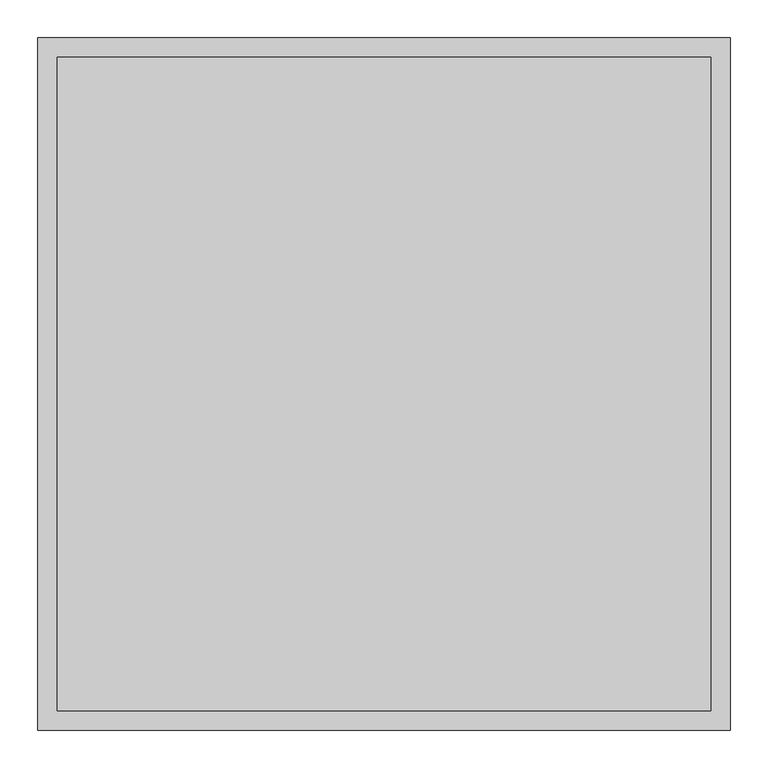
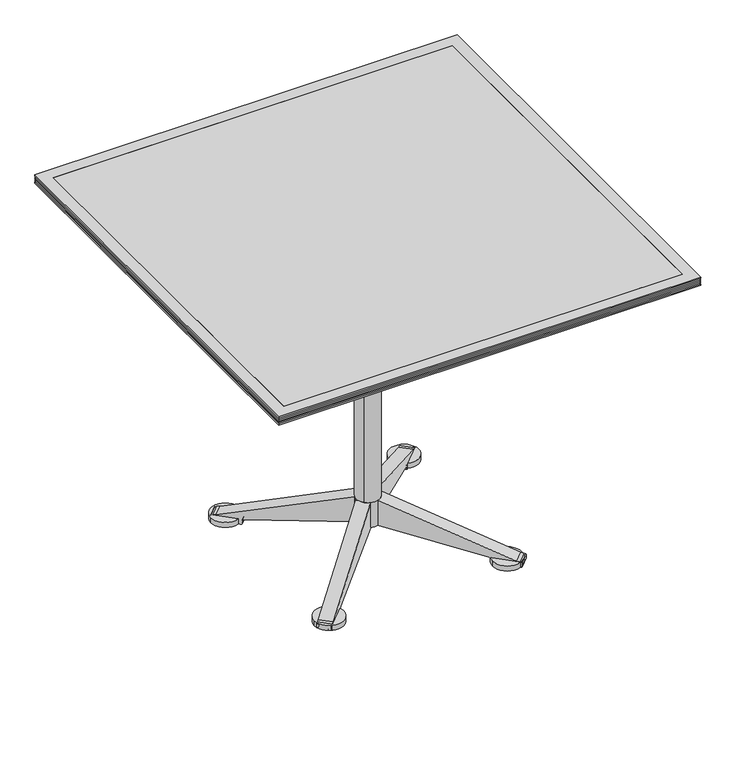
"""IFC4 building model written with IfcOpenShell, lengths in millimetres: furniture geometry, Coalesse_AM_Table_Conference_Ballet_Square : 36L x 36W - Fixed/Glide."""

from ifc_helpers import new_model, si_unit, point, frame, frame_2d, origin, origin_with_axes, place, context, project, spatial, polyline, circle_curve, trimmed, segment, composite_curve, outline, extrude, faceted_brep, source, transform, mapped, element, save


def furniture_408d4948(model_context):
    return source(origin(), model_context, "Body", "SolidModel", [
        extrude(outline(composite_curve([segment(trimmed(circle_curve(frame_2d((-194.715793, 197.3207687)), 31.75), [point((-226.465793, 197.3207687))], [point((-162.965793, 197.3207687))], False, "CARTESIAN"), True, "CONTINUOUS"), segment(trimmed(circle_curve(frame_2d((-194.715793, 197.3207687)), 31.75), [point((-162.965793, 197.3207687))], [point((-226.465793, 197.3207687))], False, "CARTESIAN"), True, "CONTINUOUS")], self_intersect=False)), frame((0.0, 0.0, 4.2904479), z_axis=(0.0, 0.0, 1.0), x_axis=(1.0, 0.0, 0.0)), (0.0, 0.0, 1.0), 11.3833531),
        extrude(outline(composite_curve([segment(trimmed(circle_curve(frame_2d((191.7194605, 196.5270187)), 31.75), [point((159.9694605, 196.5270187))], [point((223.4694605, 196.5270187))], False, "CARTESIAN"), True, "CONTINUOUS"), segment(trimmed(circle_curve(frame_2d((191.7194605, 196.5270187)), 31.75), [point((223.4694605, 196.5270187))], [point((159.9694605, 196.5270187))], False, "CARTESIAN"), True, "CONTINUOUS")], self_intersect=False)), frame((0.0, 0.0, 4.2904479), z_axis=(0.0, 0.0, 1.0), x_axis=(1.0, 0.0, 0.0)), (0.0, 0.0, 1.0), 11.3833531),
        extrude(outline(composite_curve([segment(trimmed(circle_curve(frame_2d((-194.715793, -191.2787692)), 31.75), [point((-226.465793, -191.2787692))], [point((-162.965793, -191.2787692))], False, "CARTESIAN"), True, "CONTINUOUS"), segment(trimmed(circle_curve(frame_2d((-194.715793, -191.2787692)), 31.75), [point((-162.965793, -191.2787692))], [point((-226.465793, -191.2787692))], False, "CARTESIAN"), True, "CONTINUOUS")], self_intersect=False)), frame((0.0, 0.0, 4.2904479), z_axis=(0.0, 0.0, 1.0), x_axis=(1.0, 0.0, 0.0)), (0.0, 0.0, 1.0), 11.3833531),
        extrude(outline(composite_curve([segment(trimmed(circle_curve(frame_2d((191.7194605, -190.4850192)), 31.75), [point((159.9694605, -190.4850192))], [point((223.4694605, -190.4850192))], False, "CARTESIAN"), True, "CONTINUOUS"), segment(trimmed(circle_curve(frame_2d((191.7194605, -190.4850192)), 31.75), [point((223.4694605, -190.4850192))], [point((159.9694605, -190.4850192))], False, "CARTESIAN"), True, "CONTINUOUS")], self_intersect=False)), frame((0.0, 0.0, 4.2904479), z_axis=(0.0, 0.0, 1.0), x_axis=(1.0, 0.0, 0.0)), (0.0, 0.0, 1.0), 11.3833531),
        extrude(outline(composite_curve([segment(polyline([(-57.749273, 0.0), (0.0, 0.0), (-90.9931074, -269.8641919), (-92.3030079, -279.1846177)]), True, "CONTINUOUS"), segment(trimmed(circle_curve(frame_2d((-93.9206951, -278.9572666)), 1.6335852), [point((-92.3030079, -279.1846177))], [point((-93.8206014, -280.5877823))], False, "CARTESIAN"), True, "CONTINUOUS"), segment(trimmed(circle_curve(frame_2d((-95.8523928, -247.4901147)), 33.1599725), [point((-93.8206014, -280.5877823))], [point((-101.682402, -280.1335639))], False, "CARTESIAN"), True, "CONTINUOUS"), segment(trimmed(circle_curve(frame_2d((-101.2796868, -277.8786768)), 2.2905666), [point((-101.682402, -280.1335639))], [point((-103.5674671, -277.7657306))], False, "CARTESIAN"), True, "CONTINUOUS"), segment(polyline([(-103.5674671, -277.7657306), (-103.5674671, -222.4322812)]), True, "CONTINUOUS"), segment(trimmed(circle_curve(frame_2d((-100.6154331, -221.9840334)), 2.9858719), [point((-103.5674671, -222.4322812))], [point((-100.2998684, -219.0148838))], False, "CARTESIAN"), True, "CONTINUOUS"), segment(trimmed(circle_curve(frame_2d((-98.3053249, -200.2482144)), 18.872363), [point((-100.2998684, -219.0148838))], [point((-94.5016021, -218.7332835))], True, "CARTESIAN"), True, "CONTINUOUS"), segment(trimmed(circle_curve(frame_2d((-95.1495986, -215.5841949)), 3.2150673), [point((-94.5016021, -218.7332835))], [point((-91.9741141, -216.0871422))], True, "CARTESIAN"), True, "CONTINUOUS"), segment(polyline([(-91.9741141, -216.0871422), (-57.749273, 0.0)]), True, "CONTINUOUS")], self_intersect=False)), frame((-23.5273141, 7.7834997, 107.857915), z_axis=(0.7071067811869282, 0.707106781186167, 0.0), x_axis=(0.0, 0.0, 1.0)), (0.0, 0.0, 1.0), 29.2174476),
        extrude(outline(composite_curve([segment(polyline([(-57.749273, 44.2801775), (-91.9741141, 260.3673198)]), True, "CONTINUOUS"), segment(trimmed(circle_curve(frame_2d((-95.1495986, 259.8643724)), 3.2150673), [point((-91.9741141, 260.3673198))], [point((-94.5016021, 263.013461))], True, "CARTESIAN"), True, "CONTINUOUS"), segment(trimmed(circle_curve(frame_2d((-98.3053249, 244.5283919)), 18.872363), [point((-94.5016021, 263.013461))], [point((-100.2998684, 263.2950613))], True, "CARTESIAN"), True, "CONTINUOUS"), segment(trimmed(circle_curve(frame_2d((-100.6154331, 266.2642109)), 2.9858719), [point((-100.2998684, 263.2950613))], [point((-103.5674671, 266.7124587))], False, "CARTESIAN"), True, "CONTINUOUS"), segment(polyline([(-103.5674671, 266.7124587), (-103.5674671, 322.0459081)]), True, "CONTINUOUS"), segment(trimmed(circle_curve(frame_2d((-101.2796868, 322.1588543)), 2.2905666), [point((-103.5674671, 322.0459081))], [point((-101.682402, 324.4137415))], False, "CARTESIAN"), True, "CONTINUOUS"), segment(trimmed(circle_curve(frame_2d((-95.8523928, 291.7702923)), 33.1599725), [point((-101.682402, 324.4137415))], [point((-93.8206014, 324.8679598))], False, "CARTESIAN"), True, "CONTINUOUS"), segment(trimmed(circle_curve(frame_2d((-93.9206951, 323.2374442)), 1.6335852), [point((-93.8206014, 324.8679598))], [point((-92.3030079, 323.4647953))], False, "CARTESIAN"), True, "CONTINUOUS"), segment(polyline([(-92.3030079, 323.4647953), (-90.9931074, 314.1443694), (0.0, 44.2801775), (-57.749273, 44.2801775)]), True, "CONTINUOUS")], self_intersect=False)), frame((-23.5273141, 7.7834997, 107.857915), z_axis=(0.7071067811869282, 0.707106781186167, 0.0), x_axis=(0.0, 0.0, 1.0)), (0.0, 0.0, 1.0), 29.2174476),
        extrude(outline(composite_curve([segment(polyline([(-57.749273, 0.0), (0.0, 0.0), (-90.9931074, -269.8641919), (-92.3030079, -279.1846177)]), True, "CONTINUOUS"), segment(trimmed(circle_curve(frame_2d((-93.9206951, -278.9572666)), 1.6335852), [point((-92.3030079, -279.1846177))], [point((-93.8206014, -280.5877823))], False, "CARTESIAN"), True, "CONTINUOUS"), segment(trimmed(circle_curve(frame_2d((-95.8523928, -247.4901147)), 33.1599725), [point((-93.8206014, -280.5877823))], [point((-101.682402, -280.1335639))], False, "CARTESIAN"), True, "CONTINUOUS"), segment(trimmed(circle_curve(frame_2d((-101.2796868, -277.8786768)), 2.2905666), [point((-101.682402, -280.1335639))], [point((-103.5674671, -277.7657306))], False, "CARTESIAN"), True, "CONTINUOUS"), segment(polyline([(-103.5674671, -277.7657306), (-103.5674671, -222.4322812)]), True, "CONTINUOUS"), segment(trimmed(circle_curve(frame_2d((-100.6154331, -221.9840334)), 2.9858719), [point((-103.5674671, -222.4322812))], [point((-100.2998684, -219.0148838))], False, "CARTESIAN"), True, "CONTINUOUS"), segment(trimmed(circle_curve(frame_2d((-98.3053249, -200.2482144)), 18.872363), [point((-100.2998684, -219.0148838))], [point((-94.5016021, -218.7332835))], True, "CARTESIAN"), True, "CONTINUOUS"), segment(trimmed(circle_curve(frame_2d((-95.1495986, -215.5841949)), 3.2150673), [point((-94.5016021, -218.7332835))], [point((-91.9741141, -216.0871422))], True, "CARTESIAN"), True, "CONTINUOUS"), segment(polyline([(-91.9741141, -216.0871422), (-57.749273, 0.0)]), True, "CONTINUOUS")], self_intersect=False)), frame((-7.7834997, -23.5273141, 107.857915), z_axis=(-0.7071067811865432, 0.7071067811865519, 0.0), x_axis=(0.0, 0.0, 1.0)), (0.0, 0.0, 1.0), 29.2174476),
        extrude(outline(composite_curve([segment(polyline([(-57.749273, 44.2801775), (-91.9741141, 260.3673198)]), True, "CONTINUOUS"), segment(trimmed(circle_curve(frame_2d((-95.1495986, 259.8643724)), 3.2150673), [point((-91.9741141, 260.3673198))], [point((-94.5016021, 263.013461))], True, "CARTESIAN"), True, "CONTINUOUS"), segment(trimmed(circle_curve(frame_2d((-98.3053249, 244.5283919)), 18.872363), [point((-94.5016021, 263.013461))], [point((-100.2998684, 263.2950613))], True, "CARTESIAN"), True, "CONTINUOUS"), segment(trimmed(circle_curve(frame_2d((-100.6154331, 266.2642109)), 2.9858719), [point((-100.2998684, 263.2950613))], [point((-103.5674671, 266.7124587))], False, "CARTESIAN"), True, "CONTINUOUS"), segment(polyline([(-103.5674671, 266.7124587), (-103.5674671, 322.0459081)]), True, "CONTINUOUS"), segment(trimmed(circle_curve(frame_2d((-101.2796868, 322.1588543)), 2.2905666), [point((-103.5674671, 322.0459081))], [point((-101.682402, 324.4137415))], False, "CARTESIAN"), True, "CONTINUOUS"), segment(trimmed(circle_curve(frame_2d((-95.8523928, 291.7702923)), 33.1599725), [point((-101.682402, 324.4137415))], [point((-93.8206014, 324.8679598))], False, "CARTESIAN"), True, "CONTINUOUS"), segment(trimmed(circle_curve(frame_2d((-93.9206951, 323.2374442)), 1.6335852), [point((-93.8206014, 324.8679598))], [point((-92.3030079, 323.4647953))], False, "CARTESIAN"), True, "CONTINUOUS"), segment(polyline([(-92.3030079, 323.4647953), (-90.9931074, 314.1443694), (0.0, 44.2801775), (-57.749273, 44.2801775)]), True, "CONTINUOUS")], self_intersect=False)), frame((-7.7834997, -23.5273141, 107.857915), z_axis=(-0.7071067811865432, 0.7071067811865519, 0.0), x_axis=(0.0, 0.0, 1.0)), (0.0, 0.0, 1.0), 29.2174476),
        extrude(outline(composite_curve([segment(polyline([(-57.749273, 0.0), (0.0, 0.0), (-90.9931074, -269.8641919), (-92.3030079, -279.1846177)]), True, "CONTINUOUS"), segment(trimmed(circle_curve(frame_2d((-93.9206951, -278.9572666)), 1.6335852), [point((-92.3030079, -279.1846177))], [point((-93.8206014, -280.5877823))], False, "CARTESIAN"), True, "CONTINUOUS"), segment(trimmed(circle_curve(frame_2d((-95.8523928, -247.4901147)), 33.1599725), [point((-93.8206014, -280.5877823))], [point((-101.682402, -280.1335639))], False, "CARTESIAN"), True, "CONTINUOUS"), segment(trimmed(circle_curve(frame_2d((-101.2796868, -277.8786768)), 2.2905666), [point((-101.682402, -280.1335639))], [point((-103.5674671, -277.7657306))], False, "CARTESIAN"), True, "CONTINUOUS"), segment(polyline([(-103.5674671, -277.7657306), (-103.5674671, -222.4322812)]), True, "CONTINUOUS"), segment(trimmed(circle_curve(frame_2d((-100.6154331, -221.9840334)), 2.9858719), [point((-103.5674671, -222.4322812))], [point((-100.2998684, -219.0148838))], False, "CARTESIAN"), True, "CONTINUOUS"), segment(trimmed(circle_curve(frame_2d((-98.3053249, -200.2482144)), 18.872363), [point((-100.2998684, -219.0148838))], [point((-94.5016021, -218.7332835))], True, "CARTESIAN"), True, "CONTINUOUS"), segment(trimmed(circle_curve(frame_2d((-95.1495986, -215.5841949)), 3.2150673), [point((-94.5016021, -218.7332835))], [point((-91.9741141, -216.0871422))], True, "CARTESIAN"), True, "CONTINUOUS"), segment(polyline([(-91.9741141, -216.0871422), (-57.749273, 0.0)]), True, "CONTINUOUS")], self_intersect=False)), frame((-23.5273141, 7.7834997, 107.857915), z_axis=(0.7071067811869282, 0.707106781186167, 0.0), x_axis=(0.0, 0.0, 1.0)), (0.0, 0.0, 1.0), 29.2174476),
        extrude(outline(composite_curve([segment(polyline([(-57.749273, 44.2801775), (-91.9741141, 260.3673198)]), True, "CONTINUOUS"), segment(trimmed(circle_curve(frame_2d((-95.1495986, 259.8643724)), 3.2150673), [point((-91.9741141, 260.3673198))], [point((-94.5016021, 263.013461))], True, "CARTESIAN"), True, "CONTINUOUS"), segment(trimmed(circle_curve(frame_2d((-98.3053249, 244.5283919)), 18.872363), [point((-94.5016021, 263.013461))], [point((-100.2998684, 263.2950613))], True, "CARTESIAN"), True, "CONTINUOUS"), segment(trimmed(circle_curve(frame_2d((-100.6154331, 266.2642109)), 2.9858719), [point((-100.2998684, 263.2950613))], [point((-103.5674671, 266.7124587))], False, "CARTESIAN"), True, "CONTINUOUS"), segment(polyline([(-103.5674671, 266.7124587), (-103.5674671, 322.0459081)]), True, "CONTINUOUS"), segment(trimmed(circle_curve(frame_2d((-101.2796868, 322.1588543)), 2.2905666), [point((-103.5674671, 322.0459081))], [point((-101.682402, 324.4137415))], False, "CARTESIAN"), True, "CONTINUOUS"), segment(trimmed(circle_curve(frame_2d((-95.8523928, 291.7702923)), 33.1599725), [point((-101.682402, 324.4137415))], [point((-93.8206014, 324.8679598))], False, "CARTESIAN"), True, "CONTINUOUS"), segment(trimmed(circle_curve(frame_2d((-93.9206951, 323.2374442)), 1.6335852), [point((-93.8206014, 324.8679598))], [point((-92.3030079, 323.4647953))], False, "CARTESIAN"), True, "CONTINUOUS"), segment(polyline([(-92.3030079, 323.4647953), (-90.9931074, 314.1443694), (0.0, 44.2801775), (-57.749273, 44.2801775)]), True, "CONTINUOUS")], self_intersect=False)), frame((-23.5273141, 7.7834997, 107.857915), z_axis=(0.7071067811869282, 0.707106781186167, 0.0), x_axis=(0.0, 0.0, 1.0)), (0.0, 0.0, 1.0), 29.2174476),
        extrude(outline(composite_curve([segment(polyline([(-57.749273, 0.0), (0.0, 0.0), (-90.9931074, -269.8641919), (-92.3030079, -279.1846177)]), True, "CONTINUOUS"), segment(trimmed(circle_curve(frame_2d((-93.9206951, -278.9572666)), 1.6335852), [point((-92.3030079, -279.1846177))], [point((-93.8206014, -280.5877823))], False, "CARTESIAN"), True, "CONTINUOUS"), segment(trimmed(circle_curve(frame_2d((-95.8523928, -247.4901147)), 33.1599725), [point((-93.8206014, -280.5877823))], [point((-101.682402, -280.1335639))], False, "CARTESIAN"), True, "CONTINUOUS"), segment(trimmed(circle_curve(frame_2d((-101.2796868, -277.8786768)), 2.2905666), [point((-101.682402, -280.1335639))], [point((-103.5674671, -277.7657306))], False, "CARTESIAN"), True, "CONTINUOUS"), segment(polyline([(-103.5674671, -277.7657306), (-103.5674671, -222.4322812)]), True, "CONTINUOUS"), segment(trimmed(circle_curve(frame_2d((-100.6154331, -221.9840334)), 2.9858719), [point((-103.5674671, -222.4322812))], [point((-100.2998684, -219.0148838))], False, "CARTESIAN"), True, "CONTINUOUS"), segment(trimmed(circle_curve(frame_2d((-98.3053249, -200.2482144)), 18.872363), [point((-100.2998684, -219.0148838))], [point((-94.5016021, -218.7332835))], True, "CARTESIAN"), True, "CONTINUOUS"), segment(trimmed(circle_curve(frame_2d((-95.1495986, -215.5841949)), 3.2150673), [point((-94.5016021, -218.7332835))], [point((-91.9741141, -216.0871422))], True, "CARTESIAN"), True, "CONTINUOUS"), segment(polyline([(-91.9741141, -216.0871422), (-57.749273, 0.0)]), True, "CONTINUOUS")], self_intersect=False)), frame((-7.7834997, -23.5273141, 107.857915), z_axis=(-0.7071067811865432, 0.7071067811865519, 0.0), x_axis=(0.0, 0.0, 1.0)), (0.0, 0.0, 1.0), 29.2174476),
        extrude(outline(composite_curve([segment(polyline([(-57.749273, 44.2801775), (-91.9741141, 260.3673198)]), True, "CONTINUOUS"), segment(trimmed(circle_curve(frame_2d((-95.1495986, 259.8643724)), 3.2150673), [point((-91.9741141, 260.3673198))], [point((-94.5016021, 263.013461))], True, "CARTESIAN"), True, "CONTINUOUS"), segment(trimmed(circle_curve(frame_2d((-98.3053249, 244.5283919)), 18.872363), [point((-94.5016021, 263.013461))], [point((-100.2998684, 263.2950613))], True, "CARTESIAN"), True, "CONTINUOUS"), segment(trimmed(circle_curve(frame_2d((-100.6154331, 266.2642109)), 2.9858719), [point((-100.2998684, 263.2950613))], [point((-103.5674671, 266.7124587))], False, "CARTESIAN"), True, "CONTINUOUS"), segment(polyline([(-103.5674671, 266.7124587), (-103.5674671, 322.0459081)]), True, "CONTINUOUS"), segment(trimmed(circle_curve(frame_2d((-101.2796868, 322.1588543)), 2.2905666), [point((-103.5674671, 322.0459081))], [point((-101.682402, 324.4137415))], False, "CARTESIAN"), True, "CONTINUOUS"), segment(trimmed(circle_curve(frame_2d((-95.8523928, 291.7702923)), 33.1599725), [point((-101.682402, 324.4137415))], [point((-93.8206014, 324.8679598))], False, "CARTESIAN"), True, "CONTINUOUS"), segment(trimmed(circle_curve(frame_2d((-93.9206951, 323.2374442)), 1.6335852), [point((-93.8206014, 324.8679598))], [point((-92.3030079, 323.4647953))], False, "CARTESIAN"), True, "CONTINUOUS"), segment(polyline([(-92.3030079, 323.4647953), (-90.9931074, 314.1443694), (0.0, 44.2801775), (-57.749273, 44.2801775)]), True, "CONTINUOUS")], self_intersect=False)), frame((-7.7834997, -23.5273141, 107.857915), z_axis=(-0.7071067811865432, 0.7071067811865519, 0.0), x_axis=(0.0, 0.0, 1.0)), (0.0, 0.0, 1.0), 29.2174476),
        extrude(outline(composite_curve([segment(polyline([(-37.2834365, 26.9246599), (-26.8661847, 37.3419116)]), True, "CONTINUOUS"), segment(trimmed(circle_curve(frame_2d((0.0745836, 10.4011432)), 38.1), [point((-26.8661847, 37.3419116))], [point((27.015352, 37.3419116))], False, "CARTESIAN"), True, "CONTINUOUS"), segment(polyline([(27.015352, 37.3419116), (38.9313594, 25.4259042)]), True, "CONTINUOUS"), segment(trimmed(circle_curve(frame_2d((13.4893466, -0.0161085)), 35.9804395), [point((38.9313594, 25.4259042))], [point((38.9313594, -25.4581212))], False, "CARTESIAN"), True, "CONTINUOUS"), segment(polyline([(38.9313594, -25.4581212), (27.015352, -37.3741286)]), True, "CONTINUOUS"), segment(trimmed(circle_curve(frame_2d((0.0745836, -10.4333602)), 38.1), [point((27.015352, -37.3741286))], [point((-26.8661847, -37.3741286))], False, "CARTESIAN"), True, "CONTINUOUS"), segment(polyline([(-26.8661847, -37.3741286), (-37.2834365, -26.9568769)]), True, "CONTINUOUS"), segment(trimmed(circle_curve(frame_2d((-10.3426681, -0.0161085)), 38.1), [point((-37.2834365, -26.9568769))], [point((-37.2834365, 26.9246599))], False, "CARTESIAN"), True, "CONTINUOUS")], self_intersect=False)), frame((0.0, 0.0, 607.6784119), z_axis=(0.0, 0.0, 1.0), x_axis=(1.0, 0.0, 0.0)), (0.0, 0.0, 1.0), 50.3081696),
        extrude(outline(composite_curve([segment(polyline([(-81.1409418, 49.3084633), (-49.5692956, 80.8801095)]), True, "CONTINUOUS"), segment(trimmed(circle_curve(frame_2d((0.0, 156.1108358)), 90.0931587), [point((-49.5692956, 80.8801095))], [point((49.871233, 81.0799264))], True, "CARTESIAN"), True, "CONTINUOUS"), segment(polyline([(49.871233, 81.0799264), (81.1309866, 49.8201728)]), True, "CONTINUOUS"), segment(trimmed(circle_curve(frame_2d((153.3620811, 0.0)), 87.7461145), [point((81.1309866, 49.8201728))], [point((81.7629451, -50.7241989))], True, "CARTESIAN"), True, "CONTINUOUS"), segment(polyline([(81.7629451, -50.7241989), (50.5881651, -81.8989789)]), True, "CONTINUOUS"), segment(trimmed(circle_curve(frame_2d((0.0, -154.7295322)), 88.6761069), [point((50.5881651, -81.8989789))], [point((-51.0893198, -82.2496499))], True, "CARTESIAN"), True, "CONTINUOUS"), segment(polyline([(-51.0893198, -82.2496499), (-82.3248918, -51.014078)]), True, "CONTINUOUS"), segment(trimmed(circle_curve(frame_2d((-153.9959305, 0.0)), 87.9725749), [point((-82.3248918, -51.014078))], [point((-81.1409418, 49.3084633))], True, "CARTESIAN"), True, "CONTINUOUS")], self_intersect=False)), frame((0.0, 0.0, 635.3095602), z_axis=(0.0, 0.0, 1.0), x_axis=(1.0, 0.0, 0.0)), (0.0, 0.0, 1.0), 22.6770213),
        extrude(outline(composite_curve([segment(polyline([(113.5341679, 0.0), (115.2899262, -10.0922386)]), True, "CONTINUOUS"), segment(trimmed(circle_curve(frame_2d((109.4715659, -11.1181725)), 5.9081179), [point((115.2899262, -10.0922386))], [point((112.4302147, -16.2321))], False, "CARTESIAN"), True, "CONTINUOUS"), segment(trimmed(circle_curve(frame_2d((-123.0846109, 390.8475551)), 470.2989248), [point((112.4302147, -16.2321))], [point((-41.0580682, -72.2428518))], False, "CARTESIAN"), True, "CONTINUOUS"), segment(trimmed(circle_curve(frame_2d((-123.0846109, 390.8475551)), 470.2989248), [point((-41.0580682, -72.2428518))], [point((-66.3016738, -76.0108568))], False, "CARTESIAN"), True, "CONTINUOUS"), segment(trimmed(circle_curve(frame_2d((-64.5252058, -90.6166359)), 14.7134164), [point((-66.3016738, -76.0108568))], [point((-76.8966336, -82.6521903))], True, "CARTESIAN"), True, "CONTINUOUS"), segment(trimmed(circle_curve(frame_2d((-64.5252058, -90.6166359)), 14.7134164), [point((-76.8966336, -82.6521903))], [point((-79.0128702, -93.1841644))], True, "CARTESIAN"), True, "CONTINUOUS"), segment(trimmed(circle_curve(frame_2d((-82.4193718, -93.7878704)), 3.4595829), [point((-79.0128702, -93.1841644))], [point((-81.5814971, -97.144458))], False, "CARTESIAN"), True, "CONTINUOUS"), segment(polyline([(-81.5814971, -97.144458), (-160.8938241, -97.144458)]), True, "CONTINUOUS"), segment(trimmed(circle_curve(frame_2d((-160.0559494, -93.7878704)), 3.4595829), [point((-160.8938241, -97.144458))], [point((-163.462451, -93.1841644))], False, "CARTESIAN"), True, "CONTINUOUS"), segment(trimmed(circle_curve(frame_2d((-177.9501154, -90.6166359)), 14.7134164), [point((-163.462451, -93.1841644))], [point((-165.5786876, -82.6521903))], True, "CARTESIAN"), True, "CONTINUOUS"), segment(trimmed(circle_curve(frame_2d((-177.9501154, -90.6166359)), 14.7134164), [point((-165.5786876, -82.6521903))], [point((-176.1736474, -76.0108568))], True, "CARTESIAN"), True, "CONTINUOUS"), segment(trimmed(circle_curve(frame_2d((-119.3907103, 390.8475551)), 470.2989248), [point((-176.1736474, -76.0108568))], [point((-201.417253, -72.2428518))], False, "CARTESIAN"), True, "CONTINUOUS"), segment(trimmed(circle_curve(frame_2d((-119.3907103, 390.8475551)), 470.2989248), [point((-201.417253, -72.2428518))], [point((-354.9055359, -16.2321))], False, "CARTESIAN"), True, "CONTINUOUS"), segment(trimmed(circle_curve(frame_2d((-351.9468871, -11.1181725)), 5.9081179), [point((-354.9055359, -16.2321))], [point((-357.7652474, -10.0922386))], False, "CARTESIAN"), True, "CONTINUOUS"), segment(polyline([(-357.7652474, -10.0922386), (-355.9857135, 0.0679469), (-243.7205553, 0.0679469)]), True, "CONTINUOUS"), segment(trimmed(circle_curve(frame_2d((-184.2805603, 14.4713039)), 61.1601971), [point((-243.7205553, 0.0679469))], [point((-195.8898677, -45.5769575))], True, "CARTESIAN"), True, "CONTINUOUS"), segment(trimmed(circle_curve(frame_2d((-133.6508876, 282.6884214)), 334.1135281), [point((-195.8898677, -45.5769575))], [point((-152.1077021, -50.9149293))], True, "CARTESIAN"), True, "CONTINUOUS"), segment(trimmed(circle_curve(frame_2d((-151.5110625, -39.8460589)), 11.0849389), [point((-152.1077021, -50.9149293))], [point((-142.3165925, -46.0377945))], True, "CARTESIAN"), True, "CONTINUOUS"), segment(polyline([(-142.3165925, -46.0377945), (-100.193637, -46.0377945)]), True, "CONTINUOUS"), segment(trimmed(circle_curve(frame_2d((-91.0046411, -39.8584423)), 11.0734837), [point((-100.193637, -46.0377945))], [point((-90.2559551, -50.9065873))], True, "CARTESIAN"), True, "CONTINUOUS"), segment(trimmed(circle_curve(frame_2d((-108.7814051, 282.6895624)), 334.1101367), [point((-90.2559551, -50.9065873))], [point((-46.5723215, -45.5780317))], True, "CARTESIAN"), True, "CONTINUOUS"), segment(trimmed(circle_curve(frame_2d((-58.1722458, 14.4515716)), 61.1400975), [point((-46.5723215, -45.5780317))], [point((1.2353597, 0.0))], True, "CARTESIAN"), True, "CONTINUOUS"), segment(polyline([(1.2353597, 0.0), (113.5341679, 0.0)]), True, "CONTINUOUS")], self_intersect=False)), frame((-101.3833789, 70.072565, 704.85), z_axis=(0.7071067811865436, 0.7071067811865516, 0.0), x_axis=(-0.7071067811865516, 0.7071067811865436, 0.0)), (0.0, 0.0, 1.0), 44.2801776),
        extrude(outline(composite_curve([segment(polyline([(112.2651581, 0.0), (114.044692, -10.1601855)]), True, "CONTINUOUS"), segment(trimmed(circle_curve(frame_2d((108.2263318, -11.1861194)), 5.9081179), [point((114.044692, -10.1601855))], [point((111.1849806, -16.3000469))], False, "CARTESIAN"), True, "CONTINUOUS"), segment(trimmed(circle_curve(frame_2d((-124.3298451, 390.7796082)), 470.2989248), [point((111.1849806, -16.3000469))], [point((-42.3033023, -72.3107987))], False, "CARTESIAN"), True, "CONTINUOUS"), segment(trimmed(circle_curve(frame_2d((-124.3298451, 390.7796082)), 470.2989248), [point((-42.3033023, -72.3107987))], [point((-67.5469079, -76.0788037))], False, "CARTESIAN"), True, "CONTINUOUS"), segment(trimmed(circle_curve(frame_2d((-65.77044, -90.6845828)), 14.7134164), [point((-67.5469079, -76.0788037))], [point((-78.1418678, -82.7201372))], True, "CARTESIAN"), True, "CONTINUOUS"), segment(trimmed(circle_curve(frame_2d((-65.77044, -90.6845828)), 14.7134164), [point((-78.1418678, -82.7201372))], [point((-80.2581043, -93.2521113))], True, "CARTESIAN"), True, "CONTINUOUS"), segment(trimmed(circle_curve(frame_2d((-83.6646059, -93.8558173)), 3.4595829), [point((-80.2581043, -93.2521113))], [point((-82.8267313, -97.2124049))], False, "CARTESIAN"), True, "CONTINUOUS"), segment(polyline([(-82.8267313, -97.2124049), (-162.1390582, -97.2124049)]), True, "CONTINUOUS"), segment(trimmed(circle_curve(frame_2d((-161.3011835, -93.8558173)), 3.4595829), [point((-162.1390582, -97.2124049))], [point((-164.7076852, -93.2521113))], False, "CARTESIAN"), True, "CONTINUOUS"), segment(trimmed(circle_curve(frame_2d((-179.1953495, -90.6845828)), 14.7134164), [point((-164.7076852, -93.2521113))], [point((-166.8239217, -82.7201372))], True, "CARTESIAN"), True, "CONTINUOUS"), segment(trimmed(circle_curve(frame_2d((-179.1953495, -90.6845828)), 14.7134164), [point((-166.8239217, -82.7201372))], [point((-177.4188815, -76.0788037))], True, "CARTESIAN"), True, "CONTINUOUS"), segment(trimmed(circle_curve(frame_2d((-120.6359444, 390.7796082)), 470.2989248), [point((-177.4188815, -76.0788037))], [point((-202.6624871, -72.3107987))], False, "CARTESIAN"), True, "CONTINUOUS"), segment(trimmed(circle_curve(frame_2d((-120.6359444, 390.7796082)), 470.2989248), [point((-202.6624871, -72.3107987))], [point((-356.1507701, -16.3000469))], False, "CARTESIAN"), True, "CONTINUOUS"), segment(trimmed(circle_curve(frame_2d((-353.1921213, -11.1861194)), 5.9081179), [point((-356.1507701, -16.3000469))], [point((-359.0104815, -10.1601855))], False, "CARTESIAN"), True, "CONTINUOUS"), segment(polyline([(-359.0104815, -10.1601855), (-357.2547233, -0.0679469), (-244.955915, -0.0679469)]), True, "CONTINUOUS"), segment(trimmed(circle_curve(frame_2d((-185.5483095, 14.3836247)), 61.1400975), [point((-244.955915, -0.0679469))], [point((-197.1482338, -45.6459786))], True, "CARTESIAN"), True, "CONTINUOUS"), segment(trimmed(circle_curve(frame_2d((-134.9391503, 282.6216155)), 334.1101367), [point((-197.1482338, -45.6459786))], [point((-153.4646002, -50.9745342))], True, "CARTESIAN"), True, "CONTINUOUS"), segment(trimmed(circle_curve(frame_2d((-152.7159142, -39.9263892)), 11.0734837), [point((-153.4646002, -50.9745342))], [point((-143.5269184, -46.1057414))], True, "CARTESIAN"), True, "CONTINUOUS"), segment(polyline([(-143.5269184, -46.1057414), (-101.4039629, -46.1057414)]), True, "CONTINUOUS"), segment(trimmed(circle_curve(frame_2d((-92.2094928, -39.9140058)), 11.0849389), [point((-101.4039629, -46.1057414))], [point((-91.6128533, -50.9828762))], True, "CARTESIAN"), True, "CONTINUOUS"), segment(trimmed(circle_curve(frame_2d((-110.0696677, 282.6204745)), 334.1135281), [point((-91.6128533, -50.9828762))], [point((-47.8306877, -45.6449044))], True, "CARTESIAN"), True, "CONTINUOUS"), segment(trimmed(circle_curve(frame_2d((-59.4399951, 14.403357)), 61.1601971), [point((-47.8306877, -45.6449044))], [point((0.0, 0.0))], True, "CARTESIAN"), True, "CONTINUOUS"), segment(polyline([(0.0, 0.0), (112.2651581, 0.0)]), True, "CONTINUOUS")], self_intersect=False)), frame((-70.9530785, -102.2638924, 704.9179469), z_axis=(-0.707106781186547, 0.7071067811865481, 0.0), x_axis=(-0.7071067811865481, -0.707106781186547, 0.0)), (0.0, 0.0, 1.0), 44.2801776),
        extrude(outline(composite_curve([segment(trimmed(circle_curve(frame_2d((1.04e-05, -1.04e-05)), 25.3999999), [point((-17.9605018, -17.9605225))], [point((17.9605225, 17.9605018))], False, "CARTESIAN"), True, "CONTINUOUS"), segment(trimmed(circle_curve(frame_2d((1.04e-05, -1.04e-05)), 25.3999999), [point((17.9605225, 17.9605018))], [point((-17.9605018, -17.9605225))], False, "CARTESIAN"), True, "CONTINUOUS")], self_intersect=False)), frame((0.0, 0.0, 107.857915), z_axis=(0.0, 0.0, 1.0), x_axis=(1.0, 0.0, 0.0)), (0.0, 0.0, 1.0), 499.8204968),
        extrude(outline(composite_curve([segment(trimmed(circle_curve(frame_2d((192.2336051, -190.6461051)), 25.4), [point((174.2730929, -208.6066174))], [point((210.1941174, -172.6855929))], False, "CARTESIAN"), True, "CONTINUOUS"), segment(trimmed(circle_curve(frame_2d((192.2336051, -190.6461051)), 25.4), [point((210.1941174, -172.6855929))], [point((174.2730929, -208.6066174))], False, "CARTESIAN"), True, "CONTINUOUS")], self_intersect=False)), origin_with_axes(), (0.0, 0.0, 1.0), 4.2904479),
        extrude(outline(composite_curve([segment(trimmed(circle_curve(frame_2d((192.2336051, 196.9961051)), 25.4), [point((174.2730929, 179.0355929))], [point((210.1941174, 214.9566174))], False, "CARTESIAN"), True, "CONTINUOUS"), segment(trimmed(circle_curve(frame_2d((192.2336051, 196.9961051)), 25.4), [point((210.1941174, 214.9566174))], [point((174.2730929, 179.0355929))], False, "CARTESIAN"), True, "CONTINUOUS")], self_intersect=False)), origin_with_axes(), (0.0, 0.0, 1.0), 4.2904479),
        extrude(outline(composite_curve([segment(trimmed(circle_curve(frame_2d((-194.6148551, -191.4398551)), 25.4), [point((-212.5753674, -209.4003674))], [point((-176.6543429, -173.4793429))], False, "CARTESIAN"), True, "CONTINUOUS"), segment(trimmed(circle_curve(frame_2d((-194.6148551, -191.4398551)), 25.4), [point((-176.6543429, -173.4793429))], [point((-212.5753674, -209.4003674))], False, "CARTESIAN"), True, "CONTINUOUS")], self_intersect=False)), origin_with_axes(), (0.0, 0.0, 1.0), 4.2904479),
        extrude(outline(composite_curve([segment(trimmed(circle_curve(frame_2d((-194.2179801, 197.3929801)), 25.4), [point((-212.1784924, 179.4324679))], [point((-176.2574679, 215.3534924))], False, "CARTESIAN"), True, "CONTINUOUS"), segment(trimmed(circle_curve(frame_2d((-194.2179801, 197.3929801)), 25.4), [point((-176.2574679, 215.3534924))], [point((-212.1784924, 179.4324679))], False, "CARTESIAN"), True, "CONTINUOUS")], self_intersect=False)), origin_with_axes(), (0.0, 0.0, 1.0), 4.2904479),
        extrude(outline(composite_curve([segment(trimmed(circle_curve(frame_2d((1.04e-05, -1.04e-05)), 25.3999999), [point((-17.9605018, -17.9605225))], [point((17.9605225, 17.9605018))], False, "CARTESIAN"), True, "CONTINUOUS"), segment(trimmed(circle_curve(frame_2d((1.04e-05, -1.04e-05)), 25.3999999), [point((17.9605225, 17.9605018))], [point((-17.9605018, -17.9605225))], False, "CARTESIAN"), True, "CONTINUOUS")], self_intersect=False)), frame((0.0, 0.0, 50.8000015), z_axis=(0.0, 0.0, 1.0), x_axis=(1.0, 0.0, 0.0)), (0.0, 0.0, 1.0), 556.8784104),
        faceted_brep([(-457.2003633, 457.2, 704.85), (-431.8003876, 431.8000242, 698.5000242), (-431.8003876, -431.7999516, 698.5000242), (-457.2003633, -457.1999273, 704.85), (-457.2003633, 457.2, 708.0250242), (-457.2003633, -457.1999273, 708.0250242), (-454.0253755, 454.0250121, 709.6125), (-454.0253755, -454.0249394, 709.6125), (-457.2003633, 457.2, 711.1999758), (-457.2003633, -457.1999273, 711.1999758), (-454.0253755, 454.0250121, 712.7875242), (-454.0253755, -454.0249394, 712.7875242), (-457.2003633, 457.2, 714.375), (-457.2003633, -457.1999273, 714.375), (-454.0253755, 454.0250121, 715.9624758), (-454.0253755, -454.0249394, 715.9624758), (-457.2003633, 457.2, 717.5500242), (-457.2003633, -457.1999273, 717.5500242), (-454.0253755, 454.0250121, 719.1375), (-454.0253755, -454.0249394, 719.1375), (-457.2003633, 457.2, 720.7249758), (-457.2003633, -457.1999273, 720.7249758), (-457.2003633, 457.2, 723.9), (-457.2003633, -457.1999273, 723.9), (-431.8003876, 431.8000242, 723.9), (-431.8003876, -431.7999516, 723.9), (431.7998062, -431.7999516, 698.5000242), (457.199782, -457.1999273, 704.85), (457.199782, -457.1999273, 708.0250242), (454.0247941, -454.0249394, 709.6125), (457.199782, -457.1999273, 711.1999758), (454.0247941, -454.0249394, 712.7875242), (457.199782, -457.1999273, 714.375), (454.0247941, -454.0249394, 715.9624758), (457.199782, -457.1999273, 717.5500242), (454.0247941, -454.0249394, 719.1375), (457.199782, -457.1999273, 720.7249758), (457.199782, -457.1999273, 723.9), (431.7998062, -431.7999516, 723.9), (431.7998062, 431.8000242, 698.5000242), (457.199782, 457.2, 704.85), (457.199782, 457.2, 708.0250242), (454.0247941, 454.0250121, 709.6125), (457.199782, 457.2, 711.1999758), (454.0247941, 454.0250121, 712.7875242), (457.199782, 457.2, 714.375), (454.0247941, 454.0250121, 715.9624758), (457.199782, 457.2, 717.5500242), (454.0247941, 454.0250121, 719.1375), (457.199782, 457.2, 720.7249758), (457.199782, 457.2, 723.9), (431.7998062, 431.8000242, 723.9)], [[[0, 1, 2, 3]], [[4, 0, 3, 5]], [[6, 4, 5, 7]], [[8, 6, 7, 9]], [[10, 8, 9, 11]], [[12, 10, 11, 13]], [[14, 12, 13, 15]], [[16, 14, 15, 17]], [[18, 16, 17, 19]], [[20, 18, 19, 21]], [[22, 20, 21, 23]], [[1, 24, 25, 2]], [[3, 2, 26, 27]], [[5, 3, 27, 28]], [[7, 5, 28, 29]], [[9, 7, 29, 30]], [[11, 9, 30, 31]], [[13, 11, 31, 32]], [[15, 13, 32, 33]], [[17, 15, 33, 34]], [[19, 17, 34, 35]], [[21, 19, 35, 36]], [[23, 21, 36, 37]], [[2, 25, 38, 26]], [[27, 26, 39, 40]], [[28, 27, 40, 41]], [[29, 28, 41, 42]], [[30, 29, 42, 43]], [[31, 30, 43, 44]], [[32, 31, 44, 45]], [[33, 32, 45, 46]], [[34, 33, 46, 47]], [[35, 34, 47, 48]], [[36, 35, 48, 49]], [[37, 36, 49, 50]], [[26, 38, 51, 39]], [[40, 39, 1, 0]], [[41, 40, 0, 4]], [[42, 41, 4, 6]], [[43, 42, 6, 8]], [[44, 43, 8, 10]], [[45, 44, 10, 12]], [[46, 45, 12, 14]], [[47, 46, 14, 16]], [[48, 47, 16, 18]], [[49, 48, 18, 20]], [[50, 49, 20, 22]], [[23, 37, 50, 22], [24, 51, 38, 25]], [[39, 51, 24, 1]]]),
        extrude(outline(polyline([(431.7998062, 431.8000242), (431.7998062, -431.7999516), (-431.8003876, -431.7999516), (-431.8003876, 431.8000242), (431.7998062, 431.8000242)])), frame((0.0, 0.0, 704.85), z_axis=(0.0, 0.0, 1.0), x_axis=(1.0, 0.0, 0.0)), (0.0, 0.0, 1.0), 19.05),
    ])


if __name__ == "__main__":
    model = new_model("IFC4")
    model_context = context("Model", 3, world=origin())
    ifc_project = project(units=[si_unit("LENGTHUNIT", "METRE", prefix="MILLI")], contexts=[model_context])
    site = spatial("IfcSite", under=ifc_project)
    building = spatial("IfcBuilding", under=site)
    placement = place(None, origin())
    furniture_shape = furniture_408d4948(model_context)
    element("IfcFurniture", 1, ObjectType="Coalesse_AM_Table_Conference_Ballet_Square : 36L x 36W - Fixed/Glide", at=placement, inside=building, context=model_context, shape_type="MappedRepresentation", body=[
        mapped(furniture_shape, transform((0.0, 0.0, 0.0), x_axis=(1.0, 0.0, 0.0), y_axis=(0.0, 1.0, 0.0), z_axis=(0.0, 0.0, 1.0))),
    ])
    save(model, "model.ifc")
